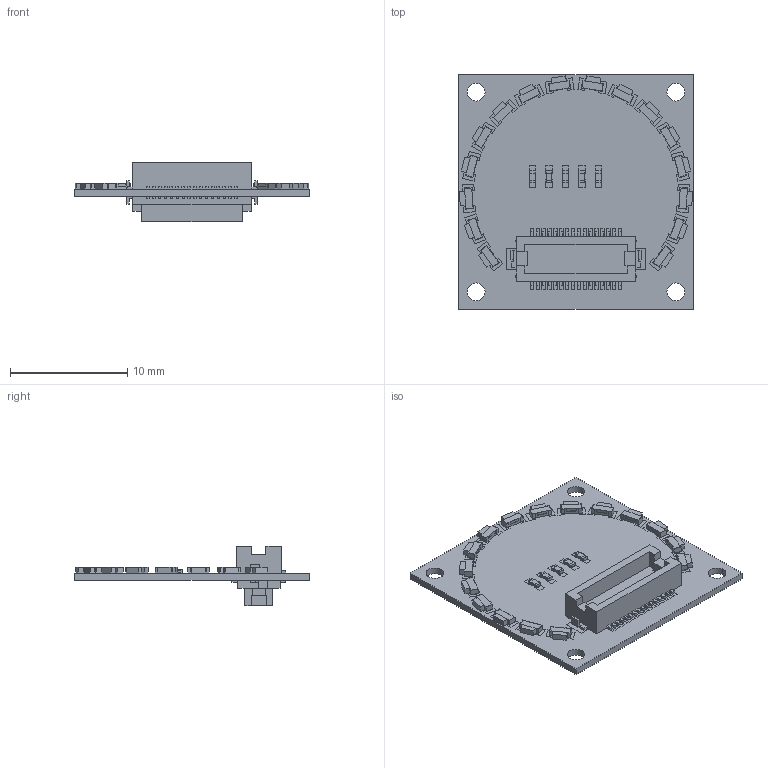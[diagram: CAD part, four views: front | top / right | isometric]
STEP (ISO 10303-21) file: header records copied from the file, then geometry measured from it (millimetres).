
FILE_DESCRIPTION(('FreeCAD Model'),'2;1');
FILE_NAME('/home/devy/MEGA/TinyCircuits/Assets/BoardsANDBoardModels/Shields/TinyCircuits-TinyShield-16_Edge_Leds-ASD2411/cad/TinyShield_16_EDGE_LEDS_STEP_ASD2411_REV5.step','2020-07-09T02:25:35',('Author'),(''), 'Open CASCADE STEP processor 7.4','FreeCAD','Unknown');
FILE_SCHEMA(('AUTOMOTIVE_DESIGN { 1 0 10303 214 1 1 1 1 }'));
Products named in the file (1): TinyShield_16_EDGE_LEDS_STEP_ASD2411_REV5
Bounding box: 20 x 20 x 5.1 mm (x, y, z)
Volume: 730.4 mm3; surface area: 2851.8 mm2
Topology: 298 solids, 298 shells, 3380 faces, 7862 edges, 5082 vertices
Faces by surface type: plane 3356, cylinder 24
Full cylindrical faces by diameter (mm): 0.5 x8, 0.652 x8, 1.502 x8
Entity records: 220599 total; most frequent: CARTESIAN_POINT 32283, DIRECTION 30354, LINE 23480, VECTOR 23480, ORIENTED_EDGE 15724, PCURVE 15724, DEFINITIONAL_REPRESENTATION 15724, EDGE_CURVE 7862
